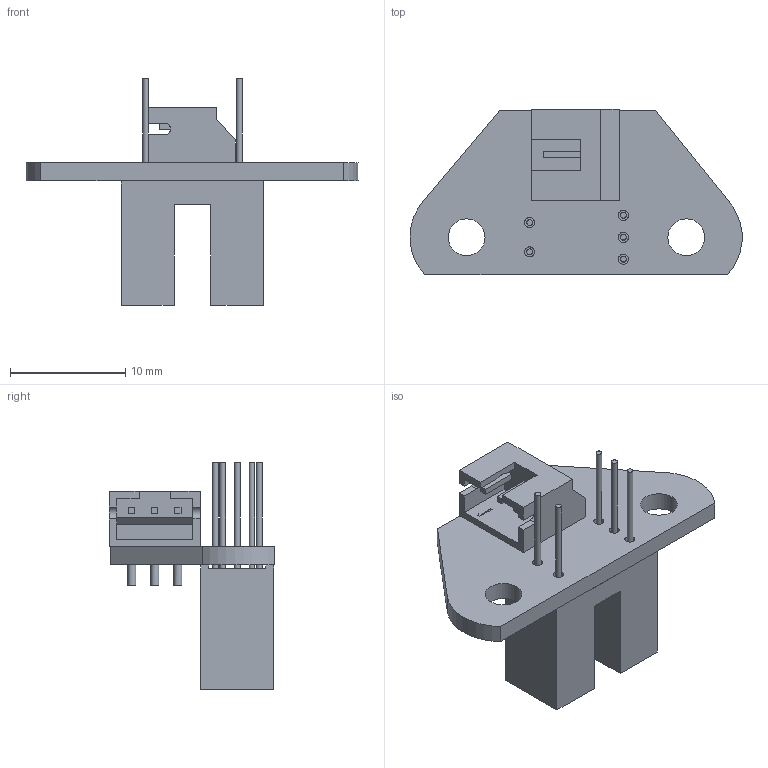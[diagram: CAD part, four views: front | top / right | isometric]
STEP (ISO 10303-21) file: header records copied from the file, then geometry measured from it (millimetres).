
FILE_DESCRIPTION(/* description */ (''),/* implementation_level */ '2;1');
FILE_NAME(/* name */ '/Users/jgs286/Dropbox/Documents/Personal/Projects/3D_printing/Voron/Reference/SSC/Twist/Photosensor/Tap_Photosensor_PCB/Tap_Photosensor_PCB v4 v3.step',/* time_stamp */ '2022-07-09T14:18:03-04:00',/* author */ (''),/* organization */ (''),/* preprocessor_version */ 'ST-DEVELOPER v19',/* originating_system */ 'Autodesk Translation Framework v11.7.0.108',/* authorisation */ '');
FILE_SCHEMA (('AUTOMOTIVE_DESIGN { 1 0 10303 214 3 1 1 }'));
Length unit declared in the file: millimetre
Products named in the file (4): Tap_Photosensor_PCB v4; _autosave-Tap_Photosensor_PCB PCB; CONNECTOR,JST PH SERIES (TH)_MALE_90_03 (S3B-PH-K-S); OPB970
Assembly tree (3 placements, depth 2):
  Tap_Photosensor_PCB v4
    _autosave-Tap_Photosensor_PCB PCB
    CONNECTOR,JST PH SERIES (TH)_MALE_90_03 (S3B-PH-K-S)
    OPB970
Bounding box: 28.8 x 14.35 x 19.69 mm (x, y, z)
Volume: 1319.3 mm3; surface area: 1942.2 mm2
Topology: 11 solids, 11 shells, 148 faces, 375 edges, 250 vertices
Faces by surface type: plane 123, cylinder 25
Full cylindrical faces by diameter (mm): 0.5 x5, 0.7 x6, 0.75 x3, 0.87 x5, 3.2 x2
Entity records: 4617 total; most frequent: CARTESIAN_POINT 780, ORIENTED_EDGE 750, DIRECTION 747, EDGE_CURVE 375, LINE 313, VECTOR 313, VERTEX_POINT 250, AXIS2_PLACEMENT_3D 217
